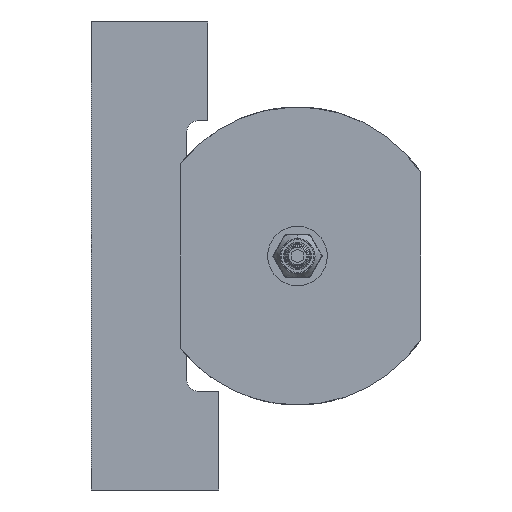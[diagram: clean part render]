
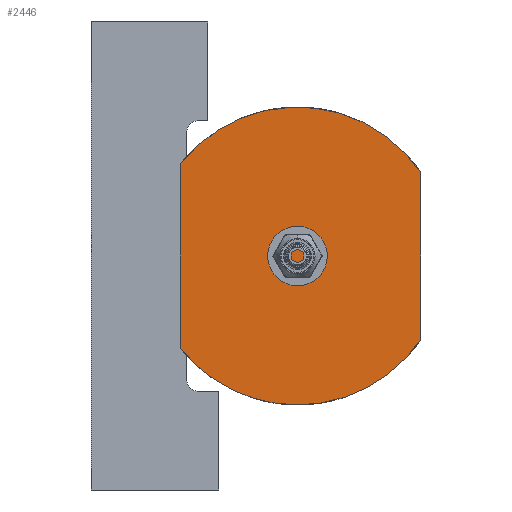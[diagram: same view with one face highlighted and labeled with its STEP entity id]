
A CAD part, left-side view. The second image highlights one B-rep face of the part: STEP entity #2446.
In plain terms, the highlighted planar face has unit normal (-1, 0, 0).
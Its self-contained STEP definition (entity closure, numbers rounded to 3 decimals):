
#87 = DIRECTION ( 'NONE',  ( 0., 0., -1. ) ) ;
#192 = ORIENTED_EDGE ( 'NONE', *, *, #8099, .F. ) ;
#248 = DIRECTION ( 'NONE',  ( 1., 0., 0. ) ) ;
#410 = CARTESIAN_POINT ( 'NONE',  ( -220., 0., 0. ) ) ;
#808 = CARTESIAN_POINT ( 'NONE',  ( -220., 0., 0. ) ) ;
#1692 = VECTOR ( 'NONE', #13511, 1000. ) ;
#2368 = AXIS2_PLACEMENT_3D ( 'NONE', #13335, #248, #87 ) ;
#2446 = ADVANCED_FACE ( 'NONE', ( #6221 ), #9757, .F. ) ;
#2535 = VERTEX_POINT ( 'NONE', #6580 ) ;
#2683 = VERTEX_POINT ( 'NONE', #7231 ) ;
#2943 = ORIENTED_EDGE ( 'NONE', *, *, #14455, .F. ) ;
#3026 = DIRECTION ( 'NONE',  ( 1., 0., 0. ) ) ;
#3191 = DIRECTION ( 'NONE',  ( 1., 0., 0. ) ) ;
#3583 = VECTOR ( 'NONE', #9672, 1000. ) ;
#3825 = CARTESIAN_POINT ( 'NONE',  ( -220., 55., 43.301 ) ) ;
#4323 = CIRCLE ( 'NONE', #8701, 70. ) ;
#4451 = CIRCLE ( 'NONE', #10342, 70. ) ;
#5532 = DIRECTION ( 'NONE',  ( 1., 0., 0. ) ) ;
#5652 = DIRECTION ( 'NONE',  ( 0., 0., -1. ) ) ;
#5964 = LINE ( 'NONE', #13497, #3583 ) ;
#6221 = FACE_OUTER_BOUND ( 'NONE', #6725, .T. ) ;
#6263 = CARTESIAN_POINT ( 'NONE',  ( -220., -58., 39.192 ) ) ;
#6286 = ORIENTED_EDGE ( 'NONE', *, *, #14028, .F. ) ;
#6580 = CARTESIAN_POINT ( 'NONE',  ( -220., 55., -43.301 ) ) ;
#6650 = CARTESIAN_POINT ( 'NONE',  ( -220., 0., 0. ) ) ;
#6725 = EDGE_LOOP ( 'NONE', ( #14474, #7567, #6286, #192, #2943 ) ) ;
#7231 = CARTESIAN_POINT ( 'NONE',  ( -220., 55., 43.301 ) ) ;
#7286 = VERTEX_POINT ( 'NONE', #13022 ) ;
#7333 = CIRCLE ( 'NONE', #8623, 70. ) ;
#7567 = ORIENTED_EDGE ( 'NONE', *, *, #11194, .F. ) ;
#7895 = DIRECTION ( 'NONE',  ( 0., 0., -1. ) ) ;
#8099 = EDGE_CURVE ( 'NONE', #14551, #7286, #4451, .T. ) ;
#8623 = AXIS2_PLACEMENT_3D ( 'NONE', #808, #3191, #5652 ) ;
#8701 = AXIS2_PLACEMENT_3D ( 'NONE', #410, #3026, #7895 ) ;
#9672 = DIRECTION ( 'NONE',  ( 0., 0., -1. ) ) ;
#9757 = PLANE ( 'NONE',  #2368 ) ;
#10342 = AXIS2_PLACEMENT_3D ( 'NONE', #6650, #5532, #11540 ) ;
#11194 = EDGE_CURVE ( 'NONE', #2535, #2683, #11258, .T. ) ;
#11258 = LINE ( 'NONE', #3825, #1692 ) ;
#11540 = DIRECTION ( 'NONE',  ( 0., 0., -1. ) ) ;
#12293 = CARTESIAN_POINT ( 'NONE',  ( -220., -58., -39.192 ) ) ;
#12666 = EDGE_CURVE ( 'NONE', #2683, #13633, #7333, .T. ) ;
#13022 = CARTESIAN_POINT ( 'NONE',  ( -220., 0., -70. ) ) ;
#13335 = CARTESIAN_POINT ( 'NONE',  ( -220., 0., 0. ) ) ;
#13497 = CARTESIAN_POINT ( 'NONE',  ( -220., -58., 39.192 ) ) ;
#13511 = DIRECTION ( 'NONE',  ( 0., 0., 1. ) ) ;
#13633 = VERTEX_POINT ( 'NONE', #6263 ) ;
#14028 = EDGE_CURVE ( 'NONE', #7286, #2535, #4323, .T. ) ;
#14455 = EDGE_CURVE ( 'NONE', #13633, #14551, #5964, .T. ) ;
#14474 = ORIENTED_EDGE ( 'NONE', *, *, #12666, .F. ) ;
#14551 = VERTEX_POINT ( 'NONE', #12293 ) ;
